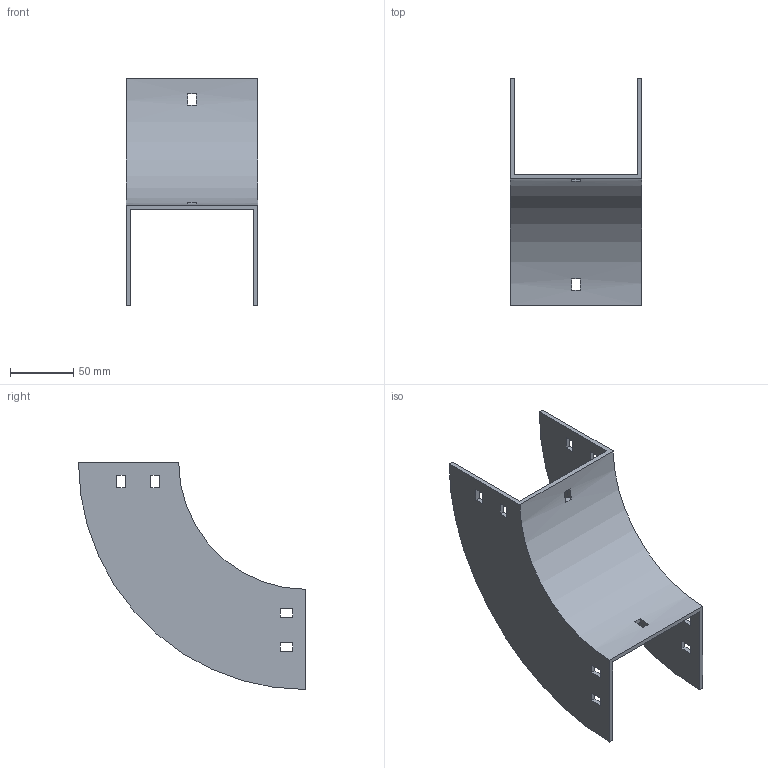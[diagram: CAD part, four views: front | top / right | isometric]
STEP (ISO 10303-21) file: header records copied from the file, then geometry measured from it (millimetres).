
FILE_DESCRIPTION (( 'STEP AP214' ), '1' );
FILE_NAME ('33B1C100.step', '2025-02-21T09:32:27', ( '' ), ( '' ), 'SwSTEP 2.0', 'SolidWorks 2023', '' );
FILE_SCHEMA (( 'AUTOMOTIVE_DESIGN' ));
Length unit declared in the file: millimetre
Products named in the file (1): 33B1C100
Bounding box: 104 x 179 x 179 mm (x, y, z)
Volume: 173063.4 mm3; surface area: 103799.4 mm2
Topology: 1 solids, 1 shells, 50 faces, 144 edges, 96 vertices
Faces by surface type: plane 46, cylinder 4
Entity records: 1687 total; most frequent: CARTESIAN_POINT 291, ORIENTED_EDGE 288, DIRECTION 262, EDGE_CURVE 144, LINE 128, VECTOR 128, VERTEX_POINT 96, EDGE_LOOP 70
